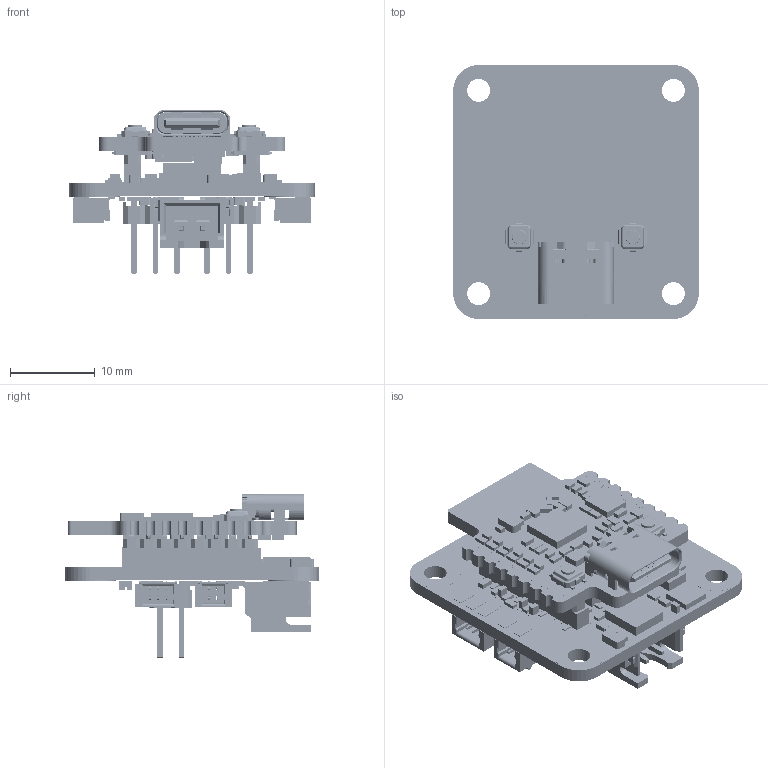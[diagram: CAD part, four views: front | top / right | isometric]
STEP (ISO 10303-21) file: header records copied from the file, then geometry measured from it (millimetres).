
FILE_DESCRIPTION((''),'2;1');
FILE_NAME('0219000_ASM','2025-02-19T15:20:43',('qinghui.yi'),(''),'CREO PARAMETRIC BY PTC INC, 2023154','CREO PARAMETRIC BY PTC INC, 2023154','');
FILE_SCHEMA(('CONFIG_CONTROL_DESIGN'));
Products named in the file (3): 00-CORE-A11000; 00-SHIELD-X11000; 0219000_ASM
Assembly tree (2 placements, depth 2):
  0219000_ASM
    00-CORE-A11000
    00-SHIELD-X11000
Bounding box: 29 x 30 x 19.46 mm (x, y, z)
Volume: 3444.1 mm3; surface area: 7506.1 mm2
Topology: 292 solids, 400 shells, 13712 faces, 39343 edges, 26356 vertices
Faces by surface type: plane 10536, cylinder 3035, extrusion 61, cone 44, torus 24, bspline 12
Entity records: 447924 total; most frequent: CARTESIAN_POINT 83814, ORIENTED_EDGE 77658, DIRECTION 72179, EDGE_CURVE 39339, VECTOR 32977, LINE 32916, VERTEX_POINT 26354, AXIS2_PLACEMENT_3D 19601
